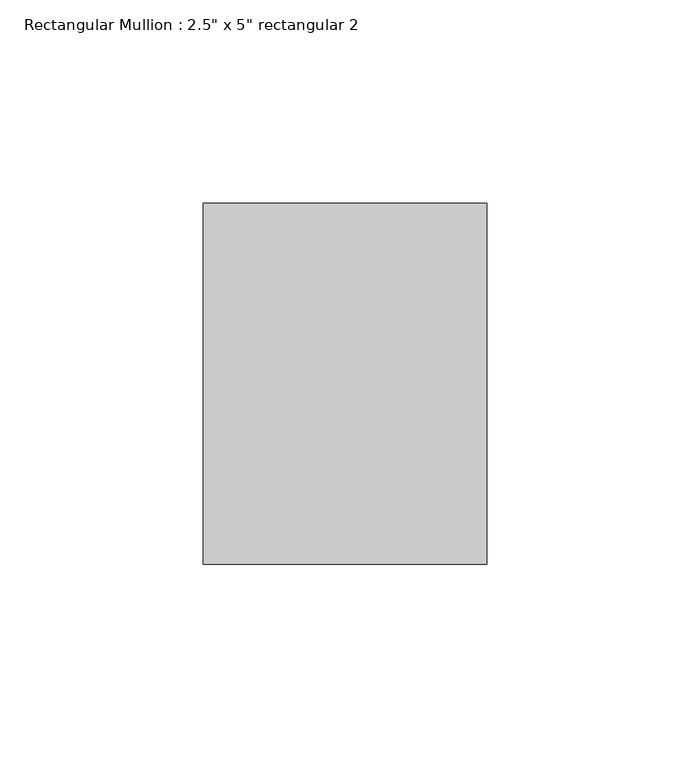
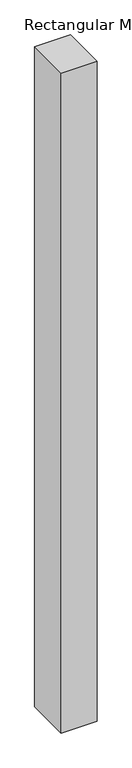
"""IFC4 building model written with IfcOpenShell, lengths in millimetres: member geometry."""

import ifcopenshell
import ifcopenshell.guid

model = None  # the IFC model being written
_history = None  # IfcOwnerHistory: only IFC2X3 demands one
_inside = {}  # id of a spatial element -> (the spatial element, [elements in it])
_under = {}  # id of a project, library or spatial element -> (it, [spatial elements below it])
_declared = {}  # id of a project -> (the project, [libraries it declares])
_typed = {}  # id of a type object -> (the type object, [elements of that type])
_made_of = {}  # id of a material, layer set ... -> (it, [elements and type objects made of it])


def new_model(schema):
    """Start an empty IFC model of exactly this schema.

    Asked for "IFC4X3", IfcOpenShell would pick the latest addendum, in which some entities
    have other attributes; the version numbers below select the first issue.
    IFC2X3 requires an IfcOwnerHistory on every rooted entity: one is made here for all.
    """
    global model, _history
    if schema == "IFC4X3":
        model = ifcopenshell.file(schema_version=(4, 3, 0, 0))
    else:
        model = ifcopenshell.file(schema=schema)
    _inside.clear()
    _under.clear()
    _declared.clear()
    _typed.clear()
    _made_of.clear()
    _history = None
    if model.schema == "IFC2X3":
        org = make("IfcOrganization", Name="unknown")
        user = make(
            "IfcPersonAndOrganization",
            ThePerson=make("IfcPerson", FamilyName="unknown"),
            TheOrganization=org,
        )
        app = make(
            "IfcApplication",
            ApplicationDeveloper=org,
            Version="unknown",
            ApplicationFullName="unknown",
            ApplicationIdentifier="unknown",
        )
        _history = make(
            "IfcOwnerHistory",
            OwningUser=user,
            OwningApplication=app,
            ChangeAction="ADDED",
            CreationDate=0,
        )
    return model


def make(cls, **values):
    """One entity of the class cls with the attributes given. An attribute that is None is left unset."""
    return model.create_entity(
        cls, **{name: value for name, value in values.items() if value is not None}
    )


def rooted(cls, **values):
    """An entity with a GlobalId (a new one), such as an element, a storey or a relation."""
    return make(cls, GlobalId=ifcopenshell.guid.new(), OwnerHistory=_history, **values)


def si_unit(unit_type, name, prefix=None):
    """IfcSIUnit, for example si_unit("LENGTHUNIT", "METRE", prefix="MILLI")."""
    return make("IfcSIUnit", UnitType=unit_type, Prefix=prefix, Name=name)


def assignment(units):
    """IfcUnitAssignment: the units of a project."""
    return None if units is None else make("IfcUnitAssignment", Units=units)


def point(xyz):
    """IfcCartesianPoint."""
    return None if xyz is None else make("IfcCartesianPoint", Coordinates=xyz)


def direction(xyz):
    """IfcDirection."""
    return None if xyz is None else make("IfcDirection", DirectionRatios=xyz)


def frame(location, z_axis=None, x_axis=None):
    """IfcAxis2Placement3D, a coordinate frame: its origin and axes. An axis left out is left unset."""
    return make(
        "IfcAxis2Placement3D",
        Location=point(location),
        Axis=direction(z_axis),
        RefDirection=direction(x_axis),
    )


def origin():
    """The frame at (0, 0, 0) with its axes left unset."""
    return frame((0.0, 0.0, 0.0))


def place(relative_to, where):
    """IfcLocalPlacement: puts the frame where relative to a parent placement (None: the world)."""
    return make(
        "IfcLocalPlacement", PlacementRelTo=relative_to, RelativePlacement=where
    )


def context(
    kind, dimensions, precision=None, world=None, true_north=None, identifier=None
):
    """IfcGeometricRepresentationContext, for example the 3D "Model" context."""
    return make(
        "IfcGeometricRepresentationContext",
        ContextIdentifier=identifier,
        ContextType=kind,
        CoordinateSpaceDimension=dimensions,
        Precision=precision,
        WorldCoordinateSystem=world,
        TrueNorth=true_north,
    )


def project(units=None, contexts=None):
    """IfcProject with its units and contexts."""
    return rooted(
        "IfcProject",
        Name="project",
        RepresentationContexts=contexts,
        UnitsInContext=assignment(units),
    )


def spatial(cls, under=None, at=None, **own):
    """A site, building, storey or space (cls), placed at a placement, below another one or the project."""
    s = rooted(cls, ObjectPlacement=at, **own)
    if under is not None:
        _under.setdefault(under.id(), (under, []))[1].append(s)
    return s


def polyline(points):
    """IfcPolyline through the points."""
    return make("IfcPolyline", Points=[point(p) for p in points])


def outline(outer, holes=None, kind="AREA"):
    """IfcArbitraryClosedProfileDef: a profile drawn as a closed curve; with holes, ...WithVoids."""
    if holes is None:
        return make("IfcArbitraryClosedProfileDef", ProfileType=kind, OuterCurve=outer)
    return make(
        "IfcArbitraryProfileDefWithVoids",
        ProfileType=kind,
        OuterCurve=outer,
        InnerCurves=holes,
    )


def extrude(swept, where, along, depth):
    """IfcExtrudedAreaSolid: the profile swept, set in the frame where, extruded along a direction by depth."""
    return make(
        "IfcExtrudedAreaSolid",
        SweptArea=swept,
        Position=where,
        ExtrudedDirection=direction(along),
        Depth=depth,
    )


def shape(context_of_items, identifier, shape_type, items):
    """IfcShapeRepresentation: the items that make up one representation, for example the "Body"."""
    return make(
        "IfcShapeRepresentation",
        ContextOfItems=context_of_items,
        RepresentationIdentifier=identifier,
        RepresentationType=shape_type,
        Items=items,
    )


def source(mapping_origin, context_of_items, identifier, shape_type, items):
    """IfcRepresentationMap: a shape defined once, which mapped items show again and again."""
    return make(
        "IfcRepresentationMap",
        MappingOrigin=mapping_origin,
        MappedRepresentation=shape(context_of_items, identifier, shape_type, items),
    )


def transform(
    local_origin,
    x_axis=None,
    y_axis=None,
    z_axis=None,
    scale=None,
    scale2=None,
    scale3=None,
    uniform=True,
):
    """IfcCartesianTransformationOperator3D, or its non-uniform kind. x_axis, y_axis, z_axis: its Axis1, 2, 3."""
    if uniform:
        return make(
            "IfcCartesianTransformationOperator3D",
            Axis1=direction(x_axis),
            Axis2=direction(y_axis),
            LocalOrigin=point(local_origin),
            Scale=scale,
            Axis3=direction(z_axis),
        )
    return make(
        "IfcCartesianTransformationOperator3DnonUniform",
        Axis1=direction(x_axis),
        Axis2=direction(y_axis),
        LocalOrigin=point(local_origin),
        Scale=scale,
        Axis3=direction(z_axis),
        Scale2=scale2,
        Scale3=scale3,
    )


def mapped(mapping_source, mapping_target):
    """IfcMappedItem: shows the shape of a source again, moved by a transform."""
    return make(
        "IfcMappedItem", MappingSource=mapping_source, MappingTarget=mapping_target
    )


def made_of(thing, what):
    """Note that an element or type object is made of a material, layer set ...; save() writes the relation."""
    if what is not None:
        _made_of.setdefault(what.id(), (what, []))[1].append(thing)
    return thing


def element(
    cls,
    number,
    at=None,
    inside=None,
    cuts=None,
    type_object=None,
    material=None,
    context=None,
    identifier="Body",
    shape_type=None,
    held_by="IfcProductDefinitionShape",
    body=None,
    shapes=None,
    **own,
):
    """One element of the class cls, such as IfcWall. Its Tag is "e" and its number.

    at: its placement. inside: the storey or other place that contains it. cuts: it is an
    opening in that element (IfcRelVoidsElement). A single representation is given by context,
    identifier, shape_type and body (its items); several are given by shapes. held_by: the class
    of the entity that holds the representations. save() writes the other relations.
    """
    e = rooted(cls, Tag="e%d" % number, ObjectPlacement=at, **own)
    if body is not None:
        shapes = [shape(context, identifier, shape_type, body)]
    if shapes is not None:
        e.Representation = make(held_by, Representations=shapes)
    if inside is not None:
        _inside.setdefault(inside.id(), (inside, []))[1].append(e)
    if cuts is not None:
        rooted(
            "IfcRelVoidsElement", RelatingBuildingElement=cuts, RelatedOpeningElement=e
        )
    if type_object is not None:
        _typed.setdefault(type_object.id(), (type_object, []))[1].append(e)
    return made_of(e, material)


def aggregate(whole, parts):
    """IfcRelAggregates: a whole, such as a stair, and the parts it consists of."""
    return rooted("IfcRelAggregates", RelatingObject=whole, RelatedObjects=parts)


def save(model, path):
    """Write the relations noted so far, then the file.

    IfcRelAggregates (storeys below a building ...), IfcRelContainedInSpatialStructure (elements
    in a storey), IfcRelDefinesByType, IfcRelAssociatesMaterial and IfcRelDeclares: one each for
    every whole, place, type object, material and project.
    """
    for whole, parts in _under.values():
        aggregate(whole, parts)
    for where, things in _inside.values():
        rooted(
            "IfcRelContainedInSpatialStructure",
            RelatedElements=things,
            RelatingStructure=where,
        )
    for kind, things in _typed.values():
        rooted("IfcRelDefinesByType", RelatedObjects=things, RelatingType=kind)
    for what, things in _made_of.values():
        rooted("IfcRelAssociatesMaterial", RelatedObjects=things, RelatingMaterial=what)
    for by, libraries in _declared.values():
        rooted("IfcRelDeclares", RelatingContext=by, RelatedDefinitions=libraries)
    model.write(path)


def member_303bf657(model_context):
    return source(origin(), model_context, "Body", "SweptSolid", [
        extrude(outline(polyline([(38.1, 44.45), (38.1, -44.45), (-31.75, -44.45), (-31.75, 44.45), (38.1, 44.45)])), frame((0.0, 0.0, -1350.8379274), z_axis=(0.0, 0.0, 1.0), x_axis=(1.0, 0.0, 0.0)), (0.0, 0.0, 1.0), 1350.8379274),
    ])


if __name__ == "__main__":
    model = new_model("IFC4")
    model_context = context("Model", 3, world=origin())
    ifc_project = project(units=[si_unit("LENGTHUNIT", "METRE", prefix="MILLI")], contexts=[model_context])
    site = spatial("IfcSite", under=ifc_project)
    building = spatial("IfcBuilding", under=site)
    placement = place(None, origin())
    member_shape = member_303bf657(model_context)
    element("IfcMember", 1, ObjectType="Rectangular Mullion : 2.5\" x 5\" rectangular 2", at=placement, inside=building, context=model_context, shape_type="MappedRepresentation", body=[
        mapped(member_shape, transform((0.0, 0.0, 0.0), x_axis=(1.0, 0.0, 0.0), y_axis=(0.0, 1.0, 0.0), z_axis=(0.0, 0.0, 1.0))),
    ])
    save(model, "model.ifc")
